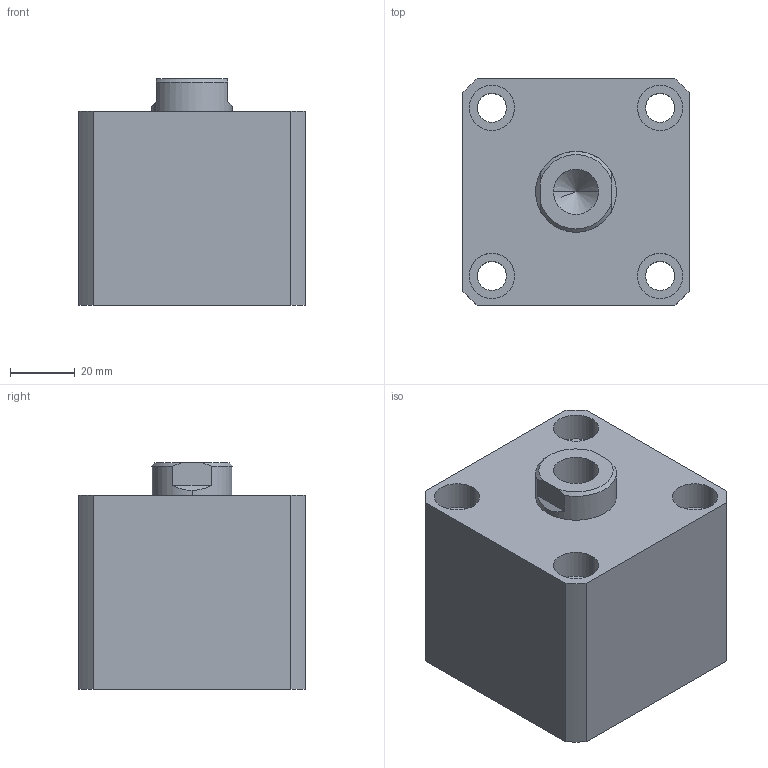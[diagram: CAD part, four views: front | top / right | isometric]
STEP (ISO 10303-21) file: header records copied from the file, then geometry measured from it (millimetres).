
FILE_DESCRIPTION (( 'STEP AP203' ), '1' );
FILE_NAME ('HTB-SDMB40-5N.STEP', '2019-10-09T01:37:43', ( '微软用户' ), ( '微软中国' ), 'SwSTEP 2.0', 'SolidWorks 2012', '' );
FILE_SCHEMA (( 'CONFIG_CONTROL_DESIGN' ));
Length unit declared in the file: millimetre
Products named in the file (3): HTB-SDMB40-5N; HTB-SDMB40-5N活塞杆; HTB-SDMB40-5掛极
Assembly tree (2 placements, depth 2):
  HTB-SDMB40-5N
    HTB-SDMB40-5掛极
    HTB-SDMB40-5N活塞杆
Bounding box: 70 x 70 x 70 mm (x, y, z)
Volume: 266466.9 mm3; surface area: 49336.1 mm2
Topology: 2 solids, 2 shells, 137 faces, 331 edges, 217 vertices
Faces by surface type: plane 65, cylinder 46, bspline 16, torus 6, cone 4
Entity records: 5074 total; most frequent: CARTESIAN_POINT 1580, ORIENTED_EDGE 658, DIRECTION 647, EDGE_CURVE 329, AXIS2_PLACEMENT_3D 232, VERTEX_POINT 217, VECTOR 183, LINE 183
